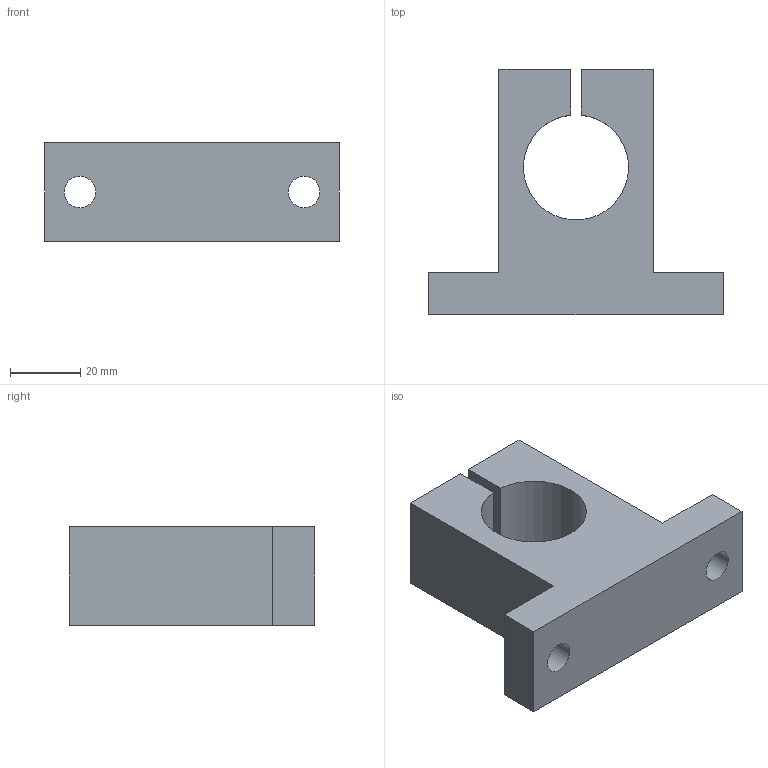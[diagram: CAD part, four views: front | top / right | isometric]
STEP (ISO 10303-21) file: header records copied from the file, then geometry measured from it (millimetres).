
FILE_DESCRIPTION( ( 'STEP AP203' ), '1' );
FILE_NAME( 'p:/temp/worker_8/temp/exporttempdir_328_914_xWyv7/format_0/SK30.stp', '2020-05-08T01:33:03', ( 'License CC BY-ND 4.0' ), ( 'CADENAS' ), ' ', 'PARTsolutions', ' ' );
FILE_SCHEMA( ( 'CONFIG_CONTROL_DESIGN' ) );
Length unit declared in the file: millimetre
Products named in the file (1): _SK30
Bounding box: 84 x 70 x 28 mm (x, y, z)
Volume: 77267 mm3; surface area: 17879.3 mm2
Topology: 1 solids, 1 shells, 16 faces, 42 edges, 28 vertices
Faces by surface type: plane 13, cylinder 3
Full cylindrical faces by diameter (mm): 9 x2
Entity records: 534 total; most frequent: CARTESIAN_POINT 85, DIRECTION 80, ORIENTED_EDGE 80, EDGE_CURVE 40, LINE 34, VECTOR 34, VERTEX_POINT 28, AXIS2_PLACEMENT_3D 23
